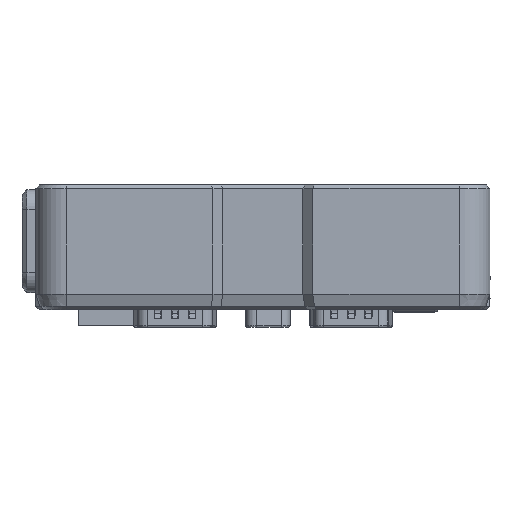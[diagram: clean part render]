
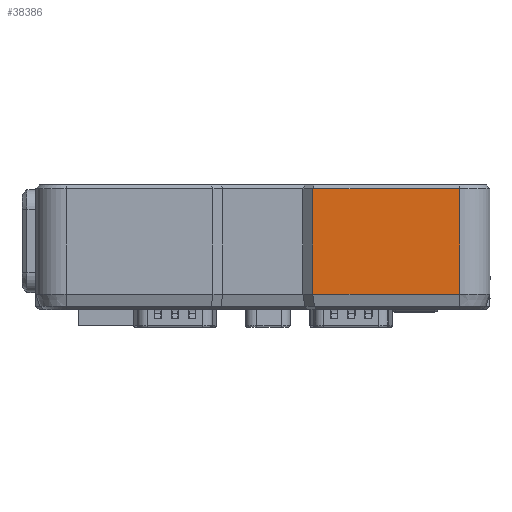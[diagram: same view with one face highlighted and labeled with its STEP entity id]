
A CAD part, left-side view. The second image highlights one B-rep face of the part: STEP entity #38386.
In plain terms, the highlighted planar face has unit normal (-1, 0, 0).
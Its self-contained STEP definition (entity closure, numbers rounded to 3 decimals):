
#6530=FACE_OUTER_BOUND('',#9001,.T.);
#9001=EDGE_LOOP('',(#33810,#33811,#33812,#33813));
#11507=LINE('',#96829,#14274);
#11547=LINE('',#96937,#14314);
#11550=LINE('',#96943,#14317);
#11551=LINE('',#96944,#14318);
#14274=VECTOR('',#50499,10.);
#14314=VECTOR('',#50607,10.);
#14317=VECTOR('',#50612,10.);
#14318=VECTOR('',#50613,10.);
#17999=VERTEX_POINT('',#96821);
#18001=VERTEX_POINT('',#96827);
#18035=VERTEX_POINT('',#96936);
#18037=VERTEX_POINT('',#96942);
#23335=EDGE_CURVE('',#18001,#17999,#11507,.T.);
#23388=EDGE_CURVE('',#18035,#17999,#11547,.T.);
#23391=EDGE_CURVE('',#18037,#18001,#11550,.T.);
#23392=EDGE_CURVE('',#18035,#18037,#11551,.T.);
#33810=ORIENTED_EDGE('',*,*,#23335,.F.);
#33811=ORIENTED_EDGE('',*,*,#23391,.F.);
#33812=ORIENTED_EDGE('',*,*,#23392,.F.);
#33813=ORIENTED_EDGE('',*,*,#23388,.T.);
#36231=PLANE('',#41845);
#38386=ADVANCED_FACE('',(#6530),#36231,.T.);
#41845=AXIS2_PLACEMENT_3D('',#96941,#50610,#50611);
#50499=DIRECTION('',(0.,1.,0.));
#50607=DIRECTION('',(0.,0.,-1.));
#50610=DIRECTION('center_axis',(-1.,0.,0.));
#50611=DIRECTION('ref_axis',(0.,1.,0.));
#50612=DIRECTION('',(0.,0.,-1.));
#50613=DIRECTION('',(0.,-1.,0.));
#96821=CARTESIAN_POINT('',(-93.292,20.601,-6.083));
#96827=CARTESIAN_POINT('',(-93.292,-9.399,-6.083));
#96829=CARTESIAN_POINT('',(-93.292,19.701,-6.083));
#96936=CARTESIAN_POINT('',(-93.292,20.601,15.467));
#96937=CARTESIAN_POINT('',(-93.292,20.601,16.267));
#96941=CARTESIAN_POINT('Origin',(-93.292,-9.399,16.267));
#96942=CARTESIAN_POINT('',(-93.292,-9.399,15.467));
#96943=CARTESIAN_POINT('',(-93.292,-9.399,16.267));
#96944=CARTESIAN_POINT('',(-93.292,19.701,15.467));
